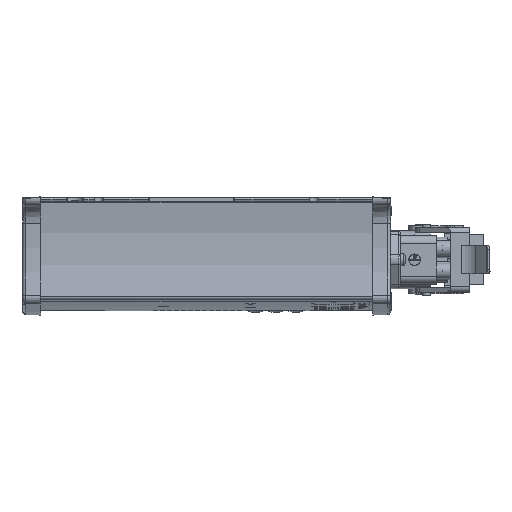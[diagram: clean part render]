
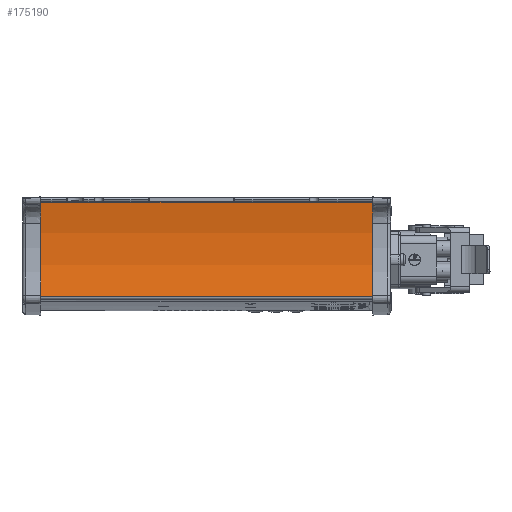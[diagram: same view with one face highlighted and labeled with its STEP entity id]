
A CAD part, left-side view. The second image highlights one B-rep face of the part: STEP entity #175190.
In plain terms, the highlighted cylindrical face has radius 109.9 mm (diameter 219.8 mm), a partial arc.
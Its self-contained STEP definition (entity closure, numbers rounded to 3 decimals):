
#6671 = DIRECTION ( 'NONE',  ( 0., 1., 0. ) ) ;
#7387 = ORIENTED_EDGE ( 'NONE', *, *, #153893, .F. ) ;
#7509 = DIRECTION ( 'NONE',  ( 0., 0., 1. ) ) ;
#7590 = AXIS2_PLACEMENT_3D ( 'NONE', #143978, #186734, #7509 ) ;
#19561 = DIRECTION ( 'NONE',  ( 0., 0., 1. ) ) ;
#19991 = VECTOR ( 'NONE', #6671, 1000. ) ;
#34665 = AXIS2_PLACEMENT_3D ( 'NONE', #90987, #76130, #102913 ) ;
#36780 = ORIENTED_EDGE ( 'NONE', *, *, #162879, .F. ) ;
#40044 = CARTESIAN_POINT ( 'NONE',  ( -79.662, -1., -1.548 ) ) ;
#46823 = VERTEX_POINT ( 'NONE', #40044 ) ;
#54733 = AXIS2_PLACEMENT_3D ( 'NONE', #126351, #184906, #19561 ) ;
#66080 = LINE ( 'NONE', #126398, #19991 ) ;
#75067 = CARTESIAN_POINT ( 'NONE',  ( -81.929, -1., -49.24 ) ) ;
#76130 = DIRECTION ( 'NONE',  ( 0., 1., 0. ) ) ;
#79143 = CARTESIAN_POINT ( 'NONE',  ( -81.929, -175., -49.24 ) ) ;
#87334 = LINE ( 'NONE', #88322, #161174 ) ;
#88322 = CARTESIAN_POINT ( 'NONE',  ( -81.929, -175., -49.24 ) ) ;
#90925 = EDGE_LOOP ( 'NONE', ( #148048, #7387, #36780, #161441 ) ) ;
#90987 = CARTESIAN_POINT ( 'NONE',  ( -187.95, -175., -20.3 ) ) ;
#92943 = CIRCLE ( 'NONE', #7590, 109.9 ) ;
#95513 = EDGE_CURVE ( 'NONE', #155949, #46823, #66080, .T. ) ;
#102913 = DIRECTION ( 'NONE',  ( 0., 0., -1. ) ) ;
#105761 = CYLINDRICAL_SURFACE ( 'NONE', #34665, 109.9 ) ;
#110664 = VERTEX_POINT ( 'NONE', #75067 ) ;
#119637 = FACE_OUTER_BOUND ( 'NONE', #90925, .T. ) ;
#126351 = CARTESIAN_POINT ( 'NONE',  ( -187.95, -175., -20.3 ) ) ;
#126398 = CARTESIAN_POINT ( 'NONE',  ( -79.662, -175., -1.548 ) ) ;
#143978 = CARTESIAN_POINT ( 'NONE',  ( -187.95, -1., -20.3 ) ) ;
#144754 = CARTESIAN_POINT ( 'NONE',  ( -79.662, -175., -1.548 ) ) ;
#148048 = ORIENTED_EDGE ( 'NONE', *, *, #165551, .T. ) ;
#153893 = EDGE_CURVE ( 'NONE', #189442, #110664, #87334, .T. ) ;
#155949 = VERTEX_POINT ( 'NONE', #144754 ) ;
#161174 = VECTOR ( 'NONE', #191349, 1000. ) ;
#161441 = ORIENTED_EDGE ( 'NONE', *, *, #95513, .T. ) ;
#162879 = EDGE_CURVE ( 'NONE', #155949, #189442, #181211, .T. ) ;
#165551 = EDGE_CURVE ( 'NONE', #46823, #110664, #92943, .T. ) ;
#175190 = ADVANCED_FACE ( 'NONE', ( #119637 ), #105761, .F. ) ;
#181211 = CIRCLE ( 'NONE', #54733, 109.9 ) ;
#184906 = DIRECTION ( 'NONE',  ( 0., 1., 0. ) ) ;
#186734 = DIRECTION ( 'NONE',  ( 0., 1., 0. ) ) ;
#189442 = VERTEX_POINT ( 'NONE', #79143 ) ;
#191349 = DIRECTION ( 'NONE',  ( 0., 1., 0. ) ) ;
